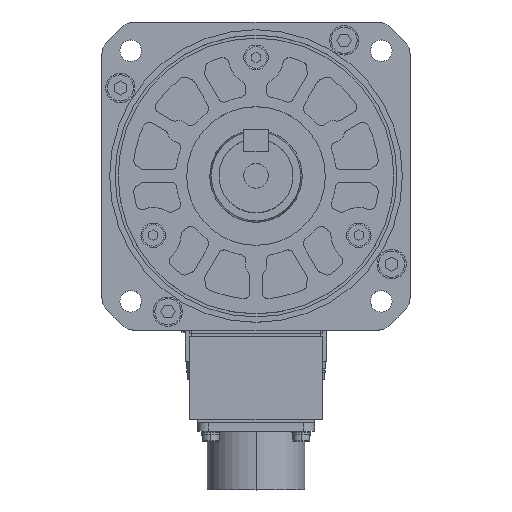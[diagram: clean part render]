
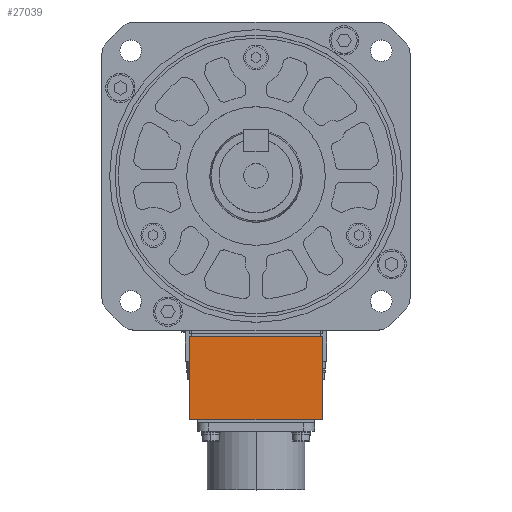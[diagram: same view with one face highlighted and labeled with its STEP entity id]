
A CAD part, top view. The second image highlights one B-rep face of the part: STEP entity #27039.
In plain terms, the highlighted planar face has unit normal (0, 0, 1).
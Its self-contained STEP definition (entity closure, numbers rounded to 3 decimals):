
#8953 = DIRECTION ( 'NONE',  ( 0., -1., 0. ) ) ;
#8954 = VECTOR ( 'NONE', #8953, 1000. ) ;
#8955 = CARTESIAN_POINT ( 'NONE',  ( 21.5, -52., -56.7 ) ) ;
#8956 = LINE ( 'NONE', #8955, #8954 ) ;
#8957 = CARTESIAN_POINT ( 'NONE',  ( 21.5, -52., -56.7 ) ) ;
#9012 = CARTESIAN_POINT ( 'NONE',  ( -21.5, -79., -56.7 ) ) ;
#9013 = DIRECTION ( 'NONE',  ( -1., 0., 0. ) ) ;
#9014 = VECTOR ( 'NONE', #9013, 1000. ) ;
#9015 = CARTESIAN_POINT ( 'NONE',  ( 21.5, -79., -56.7 ) ) ;
#9016 = LINE ( 'NONE', #9015, #9014 ) ;
#9017 = CARTESIAN_POINT ( 'NONE',  ( 21.5, -79., -56.7 ) ) ;
#14945 = VERTEX_POINT ( 'NONE', #8957 ) ;
#14947 = EDGE_CURVE ( 'NONE', #14945, #15011, #8956, .T. ) ;
#15011 = VERTEX_POINT ( 'NONE', #9017 ) ;
#15013 = EDGE_CURVE ( 'NONE', #15011, #15015, #9016, .T. ) ;
#15015 = VERTEX_POINT ( 'NONE', #9012 ) ;
#27039 = ADVANCED_FACE ( 'NONE', ( #28126 ), #28121, .F. ) ;
#27042 = ORIENTED_EDGE ( 'NONE', *, *, #27043, .T. ) ;
#27043 = EDGE_CURVE ( 'NONE', #27067, #15015, #28249, .T. ) ;
#27044 = ORIENTED_EDGE ( 'NONE', *, *, #15013, .F. ) ;
#27046 = ORIENTED_EDGE ( 'NONE', *, *, #14947, .F. ) ;
#27048 = ORIENTED_EDGE ( 'NONE', *, *, #27069, .T. ) ;
#27067 = VERTEX_POINT ( 'NONE', #28196 ) ;
#27069 = EDGE_CURVE ( 'NONE', #14945, #27067, #28192, .T. ) ;
#27081 = EDGE_LOOP ( 'NONE', ( #27042, #27044, #27046, #27048 ) ) ;
#28114 = DIRECTION ( 'NONE',  ( -1., 0., 0. ) ) ;
#28116 = DIRECTION ( 'NONE',  ( 0., 0., -1. ) ) ;
#28117 = CARTESIAN_POINT ( 'NONE',  ( 21.5, -52., -56.7 ) ) ;
#28119 = AXIS2_PLACEMENT_3D ( 'NONE', #28117, #28116, #28114 ) ;
#28121 = PLANE ( 'NONE',  #28119 ) ;
#28126 = FACE_OUTER_BOUND ( 'NONE', #27081, .T. ) ;
#28187 = DIRECTION ( 'NONE',  ( -1., 0., 0. ) ) ;
#28188 = VECTOR ( 'NONE', #28187, 1000. ) ;
#28190 = CARTESIAN_POINT ( 'NONE',  ( 21.5, -52., -56.7 ) ) ;
#28192 = LINE ( 'NONE', #28190, #28188 ) ;
#28196 = CARTESIAN_POINT ( 'NONE',  ( -21.5, -52., -56.7 ) ) ;
#28242 = DIRECTION ( 'NONE',  ( 0., -1., 0. ) ) ;
#28244 = VECTOR ( 'NONE', #28242, 1000. ) ;
#28246 = CARTESIAN_POINT ( 'NONE',  ( -21.5, -52., -56.7 ) ) ;
#28249 = LINE ( 'NONE', #28246, #28244 ) ;
